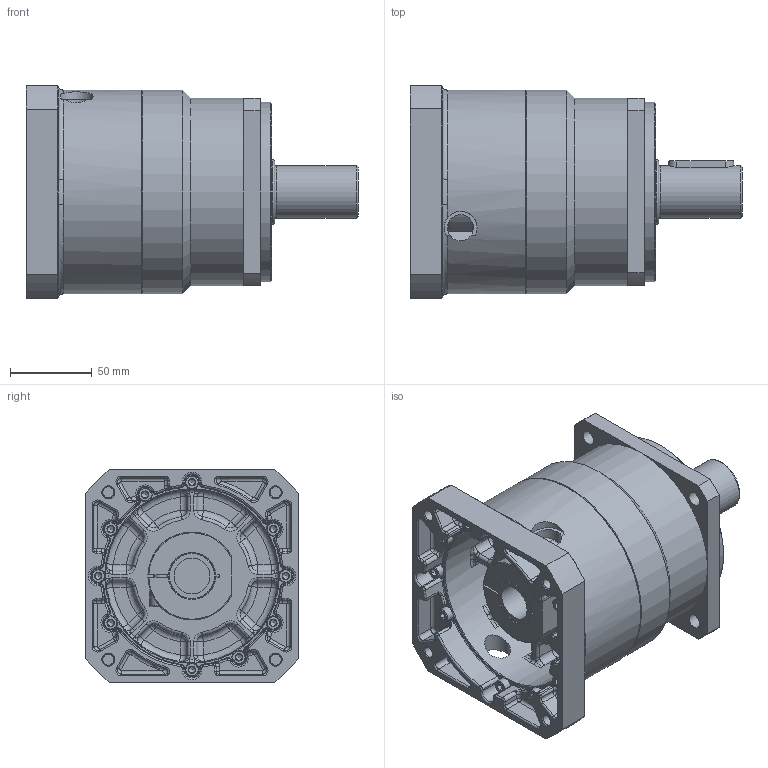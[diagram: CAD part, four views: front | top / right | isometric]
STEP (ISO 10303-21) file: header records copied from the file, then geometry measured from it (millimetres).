
FILE_DESCRIPTION(/* description */ (''),/* implementation_level */ '2;1');
FILE_NAME(/* name */ 'WEB115-L1-110-145-M8-22-64.stp',/* time_stamp */ '2025-07-16T11:44:50+08:00',/* author */ (''),/* organization */ (''),/* preprocessor_version */ 'ST-DEVELOPER v16.7',/* originating_system */ 'SIEMENS PLM Software NX 12.0',/* authorisation */ '');
FILE_SCHEMA (('AUTOMOTIVE_DESIGN { 1 0 10303 214 3 1 1 1 }'));
Length unit declared in the file: millimetre
Products named in the file (1): WEB115-L1-标准10C_stp
Bounding box: 203.5 x 130 x 130 mm (x, y, z)
Volume: 1245163.4 mm3; surface area: 200079.7 mm2
Topology: 4 solids, 4 shells, 1125 faces, 2540 edges, 1407 vertices
Faces by surface type: cylinder 332, plane 308, torus 227, bspline 125, cone 101, sphere 32
Full cylindrical faces by diameter (mm): 4.826 x10, 5.5 x10, 6.8 x4, 8 x1, 8.5 x11, 9 x4, 10.106 x1, 12.88 x1, 13 x1, 16 x2, 22 x1, 28 x1, 30 x1, 32 x1, 35 x2, 40 x1, 88.94 x1, 91.44 x1, 106 x1, 110 x1, 115 x1, 125 x2
Entity records: 35114 total; most frequent: CARTESIAN_POINT 10609, DIRECTION 5245, ORIENTED_EDGE 4670, EDGE_CURVE 2335, AXIS2_PLACEMENT_3D 2249, VERTEX_POINT 1385, EDGE_LOOP 1305, CIRCLE 1248
